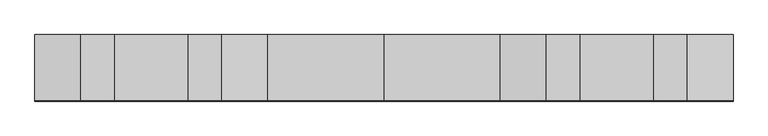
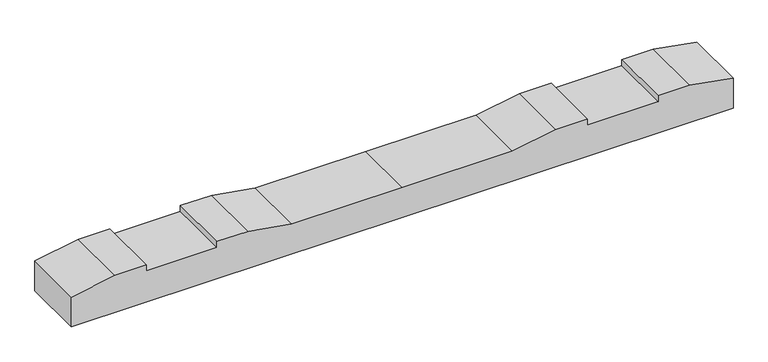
"""IFC4 building model written with IfcOpenShell, lengths in millimetres: proxy geometry, 轨枕-立面角度 : 轨枕-立面角度."""

from ifc_helpers import new_model, si_unit, frame, origin, place, context, project, spatial, polyline, outline, extrude, source, transform, mapped, element, save


def generic_models_47e99a7a(model_context):
    return source(origin(), model_context, "Body", "SweptSolid", [
        extrude(outline(polyline([(0.0, 0.0), (0.0, -100.0206889), (-137.8834664, -124.4999999), (-237.8834664, -124.4999999), (-237.8834664, -104.4999999), (-461.8834664, -104.4999999), (-461.8834664, -124.4999999), (-561.8834664, -124.4999999), (-699.8834664, -100.0), (-1049.8834664, -100.0), (-1399.8834664, -100.0), (-1537.8834664, -124.4999999), (-1637.8834664, -124.4999999), (-1637.8834664, -104.4999999), (-1861.8834664, -104.4999999), (-1861.8834664, -124.4999999), (-1961.8834664, -124.4999999), (-2099.7669328, -100.0206889), (-2099.7669328, 0.0), (0.0, 0.0)])), frame((-1049.8834664, 99.7609882, -104.7281969), z_axis=(0.0, -0.9999973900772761, 0.002284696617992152), x_axis=(-1.0, 0.0, 0.0)), (0.0, 0.0, 1.0), 200.0),
    ])


if __name__ == "__main__":
    model = new_model("IFC4")
    model_context = context("Model", 3, world=origin())
    ifc_project = project(units=[si_unit("LENGTHUNIT", "METRE", prefix="MILLI")], contexts=[model_context])
    site = spatial("IfcSite", under=ifc_project)
    building = spatial("IfcBuilding", under=site)
    placement = place(None, origin())
    generic_models_shape = generic_models_47e99a7a(model_context)
    element("IfcBuildingElementProxy", 1, Name="轨枕-立面角度 : 轨枕-立面角度", ObjectType="轨枕-立面角度 : 轨枕-立面角度", at=placement, inside=building, context=model_context, shape_type="MappedRepresentation", body=[
        mapped(generic_models_shape, transform((0.0, 0.0, 0.0), x_axis=(1.0, 0.0, 0.0), y_axis=(0.0, 1.0, 0.0), z_axis=(0.0, 0.0, 1.0))),
    ])
    save(model, "model.ifc")
